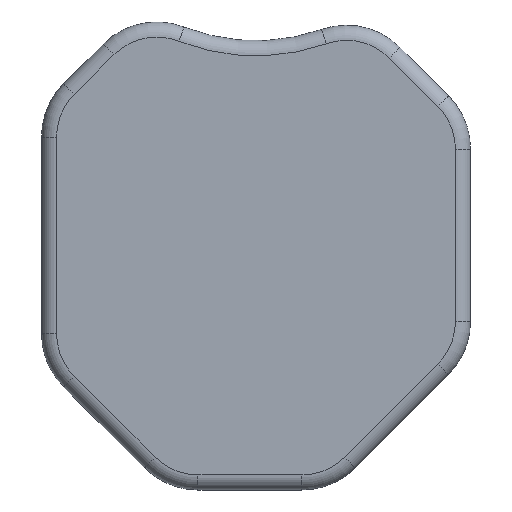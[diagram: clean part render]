
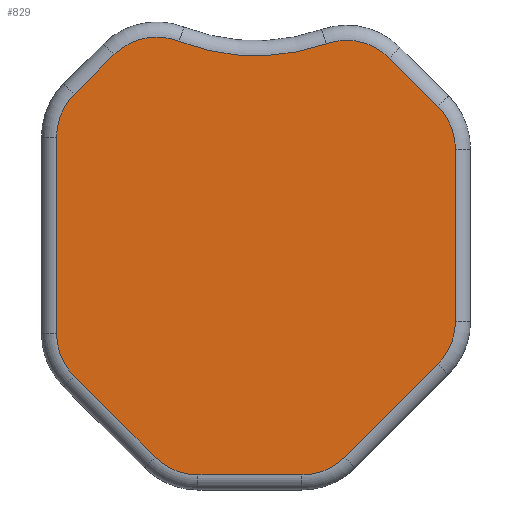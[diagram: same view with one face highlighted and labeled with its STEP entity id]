
A CAD part, left-side view. The second image highlights one B-rep face of the part: STEP entity #829.
In plain terms, the highlighted planar face has unit normal (-1, 0, 0).
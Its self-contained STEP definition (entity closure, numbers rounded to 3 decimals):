
#42=PLANE('',#904);
#61=LINE('',#1405,#105);
#62=LINE('',#1409,#106);
#63=LINE('',#1413,#107);
#64=LINE('',#1417,#108);
#65=LINE('',#1421,#109);
#66=LINE('',#1429,#110);
#67=LINE('',#1433,#111);
#105=VECTOR('',#1063,1000.);
#106=VECTOR('',#1066,1000.);
#107=VECTOR('',#1069,1000.);
#108=VECTOR('',#1072,1000.);
#109=VECTOR('',#1075,1000.);
#110=VECTOR('',#1082,1000.);
#111=VECTOR('',#1085,1000.);
#157=ORIENTED_EDGE('',*,*,#401,.T.);
#158=ORIENTED_EDGE('',*,*,#402,.T.);
#159=ORIENTED_EDGE('',*,*,#403,.T.);
#160=ORIENTED_EDGE('',*,*,#404,.T.);
#161=ORIENTED_EDGE('',*,*,#405,.T.);
#162=ORIENTED_EDGE('',*,*,#406,.T.);
#163=ORIENTED_EDGE('',*,*,#407,.T.);
#164=ORIENTED_EDGE('',*,*,#408,.T.);
#165=ORIENTED_EDGE('',*,*,#409,.T.);
#166=ORIENTED_EDGE('',*,*,#410,.T.);
#167=ORIENTED_EDGE('',*,*,#411,.T.);
#168=ORIENTED_EDGE('',*,*,#412,.T.);
#169=ORIENTED_EDGE('',*,*,#413,.T.);
#170=ORIENTED_EDGE('',*,*,#414,.T.);
#171=ORIENTED_EDGE('',*,*,#415,.T.);
#172=ORIENTED_EDGE('',*,*,#416,.T.);
#401=EDGE_CURVE('',#523,#524,#585,.F.);
#402=EDGE_CURVE('',#524,#525,#61,.T.);
#403=EDGE_CURVE('',#525,#526,#586,.F.);
#404=EDGE_CURVE('',#526,#527,#62,.T.);
#405=EDGE_CURVE('',#527,#528,#587,.F.);
#406=EDGE_CURVE('',#528,#529,#63,.T.);
#407=EDGE_CURVE('',#529,#530,#588,.F.);
#408=EDGE_CURVE('',#530,#531,#64,.T.);
#409=EDGE_CURVE('',#531,#532,#589,.F.);
#410=EDGE_CURVE('',#532,#533,#65,.F.);
#411=EDGE_CURVE('',#533,#534,#590,.F.);
#412=EDGE_CURVE('',#534,#535,#591,.T.);
#413=EDGE_CURVE('',#535,#536,#592,.F.);
#414=EDGE_CURVE('',#536,#537,#66,.F.);
#415=EDGE_CURVE('',#537,#538,#593,.F.);
#416=EDGE_CURVE('',#538,#523,#67,.T.);
#523=VERTEX_POINT('',#1403);
#524=VERTEX_POINT('',#1404);
#525=VERTEX_POINT('',#1406);
#526=VERTEX_POINT('',#1408);
#527=VERTEX_POINT('',#1410);
#528=VERTEX_POINT('',#1412);
#529=VERTEX_POINT('',#1414);
#530=VERTEX_POINT('',#1416);
#531=VERTEX_POINT('',#1418);
#532=VERTEX_POINT('',#1420);
#533=VERTEX_POINT('',#1422);
#534=VERTEX_POINT('',#1424);
#535=VERTEX_POINT('',#1426);
#536=VERTEX_POINT('',#1428);
#537=VERTEX_POINT('',#1430);
#538=VERTEX_POINT('',#1432);
#585=CIRCLE('',#905,4.);
#586=CIRCLE('',#906,4.);
#587=CIRCLE('',#907,4.);
#588=CIRCLE('',#908,4.);
#589=CIRCLE('',#909,4.);
#590=CIRCLE('',#910,4.);
#591=CIRCLE('',#911,14.);
#592=CIRCLE('',#912,4.);
#593=CIRCLE('',#913,4.);
#664=EDGE_LOOP('',(#157,#158,#159,#160,#161,#162,#163,#164,#165,#166,#167,
#168,#169,#170,#171,#172));
#734=FACE_BOUND('',#664,.T.);
#829=ADVANCED_FACE('',(#734),#42,.F.);
#904=AXIS2_PLACEMENT_3D('',#1401,#1059,#1060);
#905=AXIS2_PLACEMENT_3D('',#1402,#1061,#1062);
#906=AXIS2_PLACEMENT_3D('',#1407,#1064,#1065);
#907=AXIS2_PLACEMENT_3D('',#1411,#1067,#1068);
#908=AXIS2_PLACEMENT_3D('',#1415,#1070,#1071);
#909=AXIS2_PLACEMENT_3D('',#1419,#1073,#1074);
#910=AXIS2_PLACEMENT_3D('',#1423,#1076,#1077);
#911=AXIS2_PLACEMENT_3D('',#1425,#1078,#1079);
#912=AXIS2_PLACEMENT_3D('',#1427,#1080,#1081);
#913=AXIS2_PLACEMENT_3D('',#1431,#1083,#1084);
#1059=DIRECTION('',(1.,0.,0.));
#1060=DIRECTION('',(0.,1.,0.));
#1061=DIRECTION('',(1.,0.,0.));
#1062=DIRECTION('',(0.,1.,0.));
#1063=DIRECTION('',(0.,-0.707,-0.707));
#1064=DIRECTION('',(1.,0.,0.));
#1065=DIRECTION('',(0.,1.,0.));
#1066=DIRECTION('',(0.,-1.,0.));
#1067=DIRECTION('',(1.,0.,0.));
#1068=DIRECTION('',(0.,1.,0.));
#1069=DIRECTION('',(0.,-0.707,0.707));
#1070=DIRECTION('',(1.,0.,0.));
#1071=DIRECTION('',(0.,1.,0.));
#1072=DIRECTION('',(0.,0.,1.));
#1073=DIRECTION('',(1.,0.,0.));
#1074=DIRECTION('',(0.,1.,0.));
#1075=DIRECTION('',(0.,-0.707,-0.707));
#1076=DIRECTION('',(1.,0.,0.));
#1077=DIRECTION('',(0.,1.,0.));
#1078=DIRECTION('',(1.,0.,0.));
#1079=DIRECTION('',(0.,1.,0.));
#1080=DIRECTION('',(1.,0.,0.));
#1081=DIRECTION('',(0.,1.,0.));
#1082=DIRECTION('',(0.,-0.707,0.707));
#1083=DIRECTION('',(1.,0.,0.));
#1084=DIRECTION('',(0.,1.,0.));
#1085=DIRECTION('',(0.,0.,-1.));
#1401=CARTESIAN_POINT('',(-29.461,-51.896,0.993));
#1402=CARTESIAN_POINT('',(-29.461,-43.096,-5.541));
#1403=CARTESIAN_POINT('',(-29.461,-39.096,-5.541));
#1404=CARTESIAN_POINT('',(-29.461,-40.268,-8.37));
#1405=CARTESIAN_POINT('',(-29.461,-45.627,-13.729));
#1406=CARTESIAN_POINT('',(-29.461,-45.627,-13.729));
#1407=CARTESIAN_POINT('',(-29.461,-48.456,-10.9));
#1408=CARTESIAN_POINT('',(-29.461,-48.456,-14.9));
#1409=CARTESIAN_POINT('',(-29.461,-55.337,-14.9));
#1410=CARTESIAN_POINT('',(-29.461,-55.337,-14.9));
#1411=CARTESIAN_POINT('',(-29.461,-55.337,-10.9));
#1412=CARTESIAN_POINT('',(-29.461,-58.166,-13.729));
#1413=CARTESIAN_POINT('',(-29.461,-64.325,-7.57));
#1414=CARTESIAN_POINT('',(-29.461,-64.325,-7.57));
#1415=CARTESIAN_POINT('',(-29.461,-61.496,-4.741));
#1416=CARTESIAN_POINT('',(-29.461,-65.496,-4.741));
#1417=CARTESIAN_POINT('',(-29.461,-65.496,6.649));
#1418=CARTESIAN_POINT('',(-29.461,-65.496,6.649));
#1419=CARTESIAN_POINT('',(-29.461,-61.496,6.649));
#1420=CARTESIAN_POINT('',(-29.461,-64.325,9.478));
#1421=CARTESIAN_POINT('',(-29.461,-62.353,11.449));
#1422=CARTESIAN_POINT('',(-29.461,-61.115,12.688));
#1423=CARTESIAN_POINT('',(-29.461,-58.286,9.859));
#1424=CARTESIAN_POINT('',(-29.461,-56.955,13.631));
#1425=CARTESIAN_POINT('',(-29.461,-52.296,26.834));
#1426=CARTESIAN_POINT('',(-29.461,-47.184,13.8));
#1427=CARTESIAN_POINT('',(-29.461,-45.724,10.077));
#1428=CARTESIAN_POINT('',(-29.461,-42.895,12.905));
#1429=CARTESIAN_POINT('',(-29.461,-41.44,11.449));
#1430=CARTESIAN_POINT('',(-29.461,-40.268,10.278));
#1431=CARTESIAN_POINT('',(-29.461,-43.096,7.449));
#1432=CARTESIAN_POINT('',(-29.461,-39.096,7.449));
#1433=CARTESIAN_POINT('',(-29.461,-39.096,-5.541));
